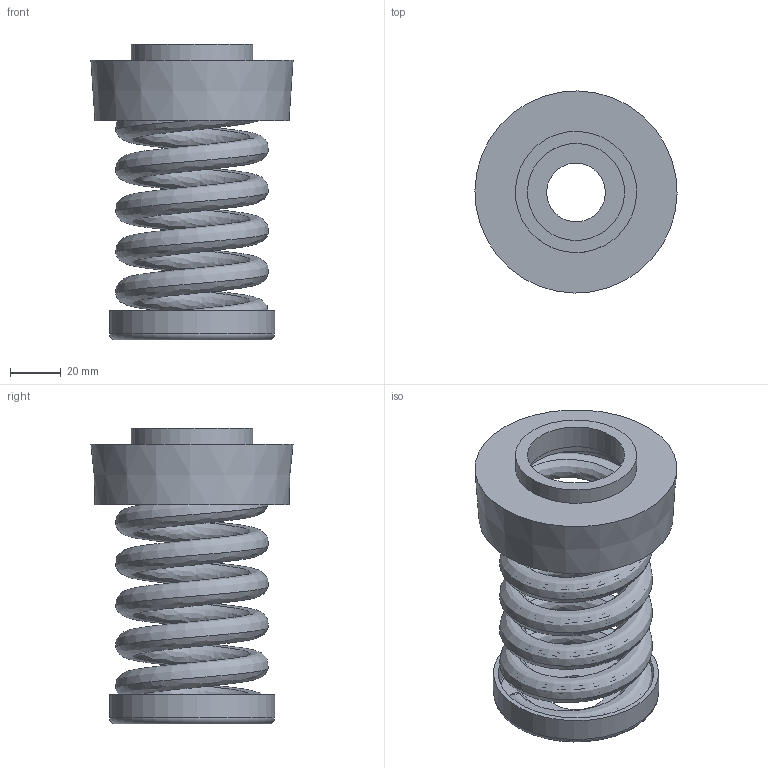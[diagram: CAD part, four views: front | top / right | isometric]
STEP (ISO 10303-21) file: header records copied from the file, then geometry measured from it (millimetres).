
FILE_DESCRIPTION(/* description */ (''),/* implementation_level */ '2;1');
FILE_NAME(/* name */ '\\Mleuckthor2\cad-proe_solids\WEBSITE FILES 05.22.13\STEP\IM\IM-B-1000.stp',/* time_stamp */ '2016-03-05T13:47:34-05:00',/* author */ ('rramoutar'),/* organization */ ('Mason Industries Inc.'),/* preprocessor_version */ 'ST-DEVELOPER v15.6',/* originating_system */ 'Autodesk Inventor 2015',/* authorisation */ '');
FILE_SCHEMA (('CONFIG_CONTROL_DESIGN'));
Length unit declared in the file: inch
Products named in the file (1): IM-B-1000 HANGER
Bounding box: 79.36 x 79.36 x 116.2 mm (x, y, z)
Volume: 92897.7 mm3; surface area: 93147.8 mm2
Topology: 4 solids, 4 shells, 56 faces, 124 edges, 82 vertices
Faces by surface type: bspline 22, plane 18, cylinder 13, torus 2, cone 1
Full cylindrical faces by diameter (mm): 23.019 x1, 38.1 x1, 41.275 x1, 44.45 x2, 47.625 x1, 59.531 x1, 61.119 x1, 64.914 x1, 69.85 x2
Entity records: 11301 total; most frequent: CARTESIAN_POINT 10115, ORIENTED_EDGE 220, DIRECTION 164, EDGE_CURVE 110, EDGE_LOOP 84, VERTEX_POINT 82, AXIS2_PLACEMENT_3D 67, STYLED_ITEM 60
